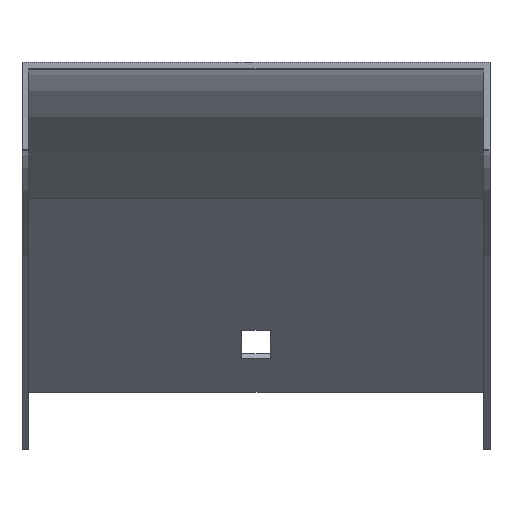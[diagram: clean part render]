
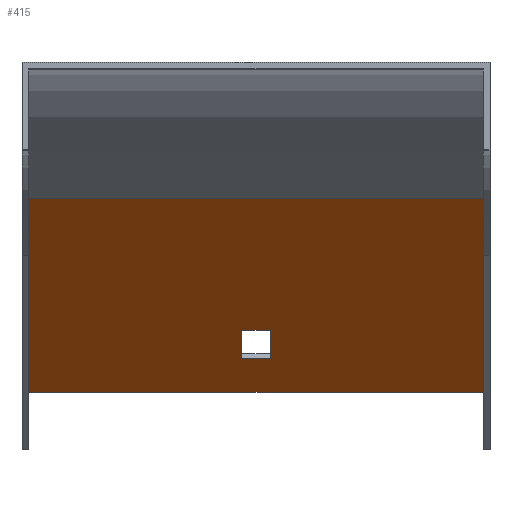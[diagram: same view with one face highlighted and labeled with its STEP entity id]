
A CAD part, top view. The second image highlights one B-rep face of the part: STEP entity #415.
In plain terms, the highlighted planar face has unit normal (0, -0.707, 0.707).
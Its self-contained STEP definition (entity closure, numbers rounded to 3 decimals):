
#5 = DIRECTION ( 'NONE',  ( -1., 0., 0. ) ) ;
#17 = VERTEX_POINT ( 'NONE', #274 ) ;
#37 = LINE ( 'NONE', #566, #369 ) ;
#42 = CARTESIAN_POINT ( 'NONE',  ( 3.25, -61.004, -163.655 ) ) ;
#58 = VERTEX_POINT ( 'NONE', #89 ) ;
#85 = DIRECTION ( 'NONE',  ( 0., 0.707, 0.707 ) ) ;
#88 = EDGE_CURVE ( 'NONE', #512, #261, #354, .T. ) ;
#89 = CARTESIAN_POINT ( 'NONE',  ( 52., -75.146, -177.797 ) ) ;
#91 = CARTESIAN_POINT ( 'NONE',  ( -52., -30.789, -133.441 ) ) ;
#100 = FACE_OUTER_BOUND ( 'NONE', #339, .T. ) ;
#103 = ORIENTED_EDGE ( 'NONE', *, *, #88, .T. ) ;
#114 = EDGE_LOOP ( 'NONE', ( #177, #828, #262, #103 ) ) ;
#118 = VECTOR ( 'NONE', #85, 1000. ) ;
#165 = CARTESIAN_POINT ( 'NONE',  ( -3.25, -67.368, -170.019 ) ) ;
#166 = VECTOR ( 'NONE', #806, 1000. ) ;
#168 = EDGE_CURVE ( 'NONE', #261, #380, #812, .T. ) ;
#171 = LINE ( 'NONE', #712, #353 ) ;
#177 = ORIENTED_EDGE ( 'NONE', *, *, #168, .T. ) ;
#189 = EDGE_CURVE ( 'NONE', #476, #616, #243, .T. ) ;
#231 = DIRECTION ( 'NONE',  ( 1., 0., 0. ) ) ;
#243 = LINE ( 'NONE', #523, #511 ) ;
#257 = EDGE_CURVE ( 'NONE', #58, #476, #171, .T. ) ;
#261 = VERTEX_POINT ( 'NONE', #707 ) ;
#262 = ORIENTED_EDGE ( 'NONE', *, *, #416, .T. ) ;
#263 = CARTESIAN_POINT ( 'NONE',  ( -3.25, -61.004, -163.655 ) ) ;
#274 = CARTESIAN_POINT ( 'NONE',  ( -52., -75.146, -177.797 ) ) ;
#289 = ORIENTED_EDGE ( 'NONE', *, *, #257, .T. ) ;
#295 = ORIENTED_EDGE ( 'NONE', *, *, #189, .T. ) ;
#298 = DIRECTION ( 'NONE',  ( 0., -0.707, -0.707 ) ) ;
#326 = LINE ( 'NONE', #594, #504 ) ;
#339 = EDGE_LOOP ( 'NONE', ( #556, #861, #289, #295 ) ) ;
#349 = DIRECTION ( 'NONE',  ( 0., -0.707, -0.707 ) ) ;
#353 = VECTOR ( 'NONE', #437, 1000. ) ;
#354 = LINE ( 'NONE', #358, #673 ) ;
#358 = CARTESIAN_POINT ( 'NONE',  ( 3.25, -30.789, -133.441 ) ) ;
#369 = VECTOR ( 'NONE', #231, 1000. ) ;
#380 = VERTEX_POINT ( 'NONE', #165 ) ;
#415 = ADVANCED_FACE ( 'NONE', ( #100, #445 ), #633, .T. ) ;
#416 = EDGE_CURVE ( 'NONE', #691, #512, #37, .T. ) ;
#437 = DIRECTION ( 'NONE',  ( 0., 0.707, 0.707 ) ) ;
#445 = FACE_BOUND ( 'NONE', #114, .T. ) ;
#476 = VERTEX_POINT ( 'NONE', #580 ) ;
#478 = DIRECTION ( 'NONE',  ( -1., 0., 0. ) ) ;
#504 = VECTOR ( 'NONE', #5, 1000. ) ;
#511 = VECTOR ( 'NONE', #725, 1000. ) ;
#512 = VERTEX_POINT ( 'NONE', #42 ) ;
#523 = CARTESIAN_POINT ( 'NONE',  ( 53.5, -30.789, -133.441 ) ) ;
#533 = CARTESIAN_POINT ( 'NONE',  ( -3.25, -30.789, -133.441 ) ) ;
#553 = AXIS2_PLACEMENT_3D ( 'NONE', #571, #561, #298 ) ;
#556 = ORIENTED_EDGE ( 'NONE', *, *, #734, .F. ) ;
#561 = DIRECTION ( 'NONE',  ( 0., -0.707, 0.707 ) ) ;
#566 = CARTESIAN_POINT ( 'NONE',  ( 53.5, -61.004, -163.655 ) ) ;
#571 = CARTESIAN_POINT ( 'NONE',  ( 53.5, -30.789, -133.441 ) ) ;
#580 = CARTESIAN_POINT ( 'NONE',  ( 52., -30.789, -133.441 ) ) ;
#594 = CARTESIAN_POINT ( 'NONE',  ( 53.5, -75.146, -177.797 ) ) ;
#604 = LINE ( 'NONE', #533, #166 ) ;
#614 = LINE ( 'NONE', #91, #118 ) ;
#616 = VERTEX_POINT ( 'NONE', #809 ) ;
#633 = PLANE ( 'NONE',  #553 ) ;
#673 = VECTOR ( 'NONE', #349, 1000. ) ;
#690 = EDGE_CURVE ( 'NONE', #58, #17, #326, .T. ) ;
#691 = VERTEX_POINT ( 'NONE', #263 ) ;
#707 = CARTESIAN_POINT ( 'NONE',  ( 3.25, -67.368, -170.019 ) ) ;
#712 = CARTESIAN_POINT ( 'NONE',  ( 52., -30.789, -133.441 ) ) ;
#720 = EDGE_CURVE ( 'NONE', #380, #691, #604, .T. ) ;
#725 = DIRECTION ( 'NONE',  ( -1., 0., 0. ) ) ;
#734 = EDGE_CURVE ( 'NONE', #17, #616, #614, .T. ) ;
#747 = CARTESIAN_POINT ( 'NONE',  ( 53.5, -67.368, -170.019 ) ) ;
#806 = DIRECTION ( 'NONE',  ( 0., 0.707, 0.707 ) ) ;
#809 = CARTESIAN_POINT ( 'NONE',  ( -52., -30.789, -133.441 ) ) ;
#812 = LINE ( 'NONE', #747, #822 ) ;
#822 = VECTOR ( 'NONE', #478, 1000. ) ;
#828 = ORIENTED_EDGE ( 'NONE', *, *, #720, .T. ) ;
#861 = ORIENTED_EDGE ( 'NONE', *, *, #690, .F. ) ;
